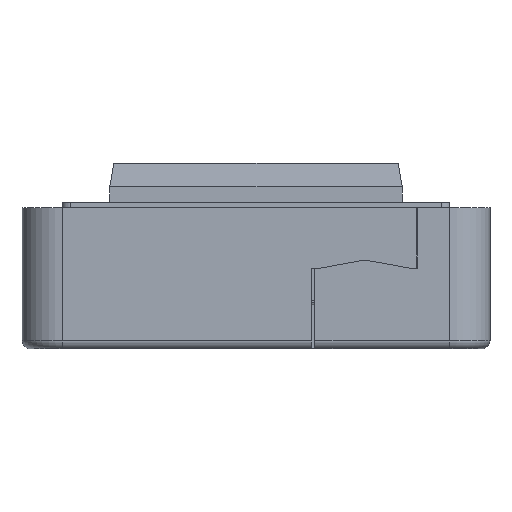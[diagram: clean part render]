
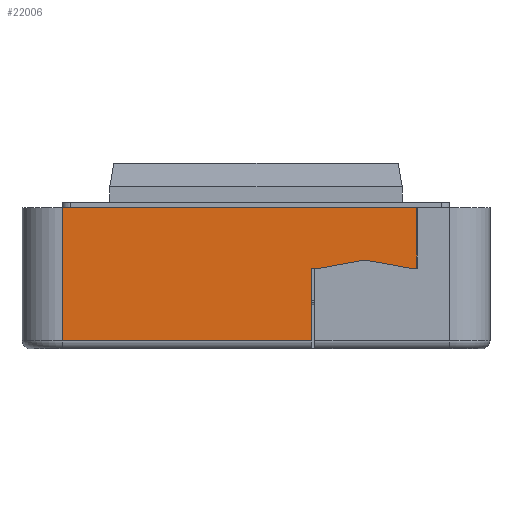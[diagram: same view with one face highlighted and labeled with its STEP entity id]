
A CAD part, left-side view. The second image highlights one B-rep face of the part: STEP entity #22006.
In plain terms, the highlighted planar face has unit normal (-1, 0, 0) as drawn and (1, 0, 0) by its records, which use the part's own axes.
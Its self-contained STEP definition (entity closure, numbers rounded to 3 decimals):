
#1917=FACE_OUTER_BOUND('',#3149,.T.);
#3149=EDGE_LOOP('',(#15078,#15079,#15080,#15081,#15082,#15083,#15084,#15085,
#15086));
#4544=LINE('',#31545,#6778);
#4642=LINE('',#31957,#6876);
#4645=LINE('',#31962,#6879);
#4647=LINE('',#31966,#6881);
#4648=LINE('',#31968,#6882);
#4649=LINE('',#31969,#6883);
#4650=LINE('',#31971,#6884);
#4651=LINE('',#31973,#6885);
#4652=LINE('',#31974,#6886);
#6778=VECTOR('',#25352,10.);
#6876=VECTOR('',#25624,10.);
#6879=VECTOR('',#25629,10.);
#6881=VECTOR('',#25633,10.);
#6882=VECTOR('',#25634,10.);
#6883=VECTOR('',#25635,10.);
#6884=VECTOR('',#25636,10.);
#6885=VECTOR('',#25637,10.);
#6886=VECTOR('',#25638,10.);
#9011=VERTEX_POINT('',#31542);
#9012=VERTEX_POINT('',#31544);
#9130=VERTEX_POINT('',#31955);
#9131=VERTEX_POINT('',#31956);
#9132=VERTEX_POINT('',#31961);
#9133=VERTEX_POINT('',#31965);
#9134=VERTEX_POINT('',#31967);
#9135=VERTEX_POINT('',#31970);
#9136=VERTEX_POINT('',#31972);
#11312=EDGE_CURVE('',#9012,#9011,#4544,.T.);
#11473=EDGE_CURVE('',#9130,#9131,#4642,.T.);
#11476=EDGE_CURVE('',#9132,#9130,#4645,.T.);
#11478=EDGE_CURVE('',#9011,#9133,#4647,.T.);
#11479=EDGE_CURVE('',#9133,#9134,#4648,.T.);
#11480=EDGE_CURVE('',#9134,#9132,#4649,.T.);
#11481=EDGE_CURVE('',#9131,#9135,#4650,.T.);
#11482=EDGE_CURVE('',#9136,#9135,#4651,.T.);
#11483=EDGE_CURVE('',#9012,#9136,#4652,.T.);
#15078=ORIENTED_EDGE('',*,*,#11478,.T.);
#15079=ORIENTED_EDGE('',*,*,#11479,.T.);
#15080=ORIENTED_EDGE('',*,*,#11480,.T.);
#15081=ORIENTED_EDGE('',*,*,#11476,.T.);
#15082=ORIENTED_EDGE('',*,*,#11473,.T.);
#15083=ORIENTED_EDGE('',*,*,#11481,.T.);
#15084=ORIENTED_EDGE('',*,*,#11482,.F.);
#15085=ORIENTED_EDGE('',*,*,#11483,.F.);
#15086=ORIENTED_EDGE('',*,*,#11312,.T.);
#21195=PLANE('',#23369);
#22006=ADVANCED_FACE('',(#1917),#21195,.T.);
#23369=AXIS2_PLACEMENT_3D('',#31964,#25631,#25632);
#25352=DIRECTION('',(0.,0.,1.));
#25624=DIRECTION('',(0.,0.,1.));
#25629=DIRECTION('',(0.,1.,0.));
#25631=DIRECTION('center_axis',(1.,0.,0.));
#25632=DIRECTION('ref_axis',(0.,0.,-1.));
#25633=DIRECTION('',(0.,1.,0.));
#25634=DIRECTION('',(0.,0.984,0.179));
#25635=DIRECTION('',(0.,0.984,-0.179));
#25636=DIRECTION('',(0.,-1.,0.));
#25637=DIRECTION('',(0.,0.,1.));
#25638=DIRECTION('',(0.,-1.,0.));
#31542=CARTESIAN_POINT('',(74.,6.9,-8.));
#31544=CARTESIAN_POINT('',(74.,6.9,-17.));
#31545=CARTESIAN_POINT('',(74.,6.9,-6.625));
#31955=CARTESIAN_POINT('',(74.,19.9,-8.));
#31956=CARTESIAN_POINT('',(74.,19.9,-0.5));
#31957=CARTESIAN_POINT('',(74.,19.9,-2.554));
#31961=CARTESIAN_POINT('',(74.,19.,-8.));
#31962=CARTESIAN_POINT('',(74.,-3.75,-8.));
#31964=CARTESIAN_POINT('Origin',(74.,-27.5,0.));
#31965=CARTESIAN_POINT('',(74.,8.,-8.));
#31966=CARTESIAN_POINT('',(74.,-3.75,-8.));
#31967=CARTESIAN_POINT('',(74.,13.5,-7.));
#31968=CARTESIAN_POINT('',(74.,-5.728,-10.496));
#31969=CARTESIAN_POINT('',(74.,-4.21,-3.78));
#31970=CARTESIAN_POINT('',(74.,-24.,-0.5));
#31971=CARTESIAN_POINT('',(74.,-27.875,-0.5));
#31972=CARTESIAN_POINT('',(74.,-24.,-17.));
#31973=CARTESIAN_POINT('',(74.,-24.,-9.));
#31974=CARTESIAN_POINT('',(74.,-22.,-17.));
